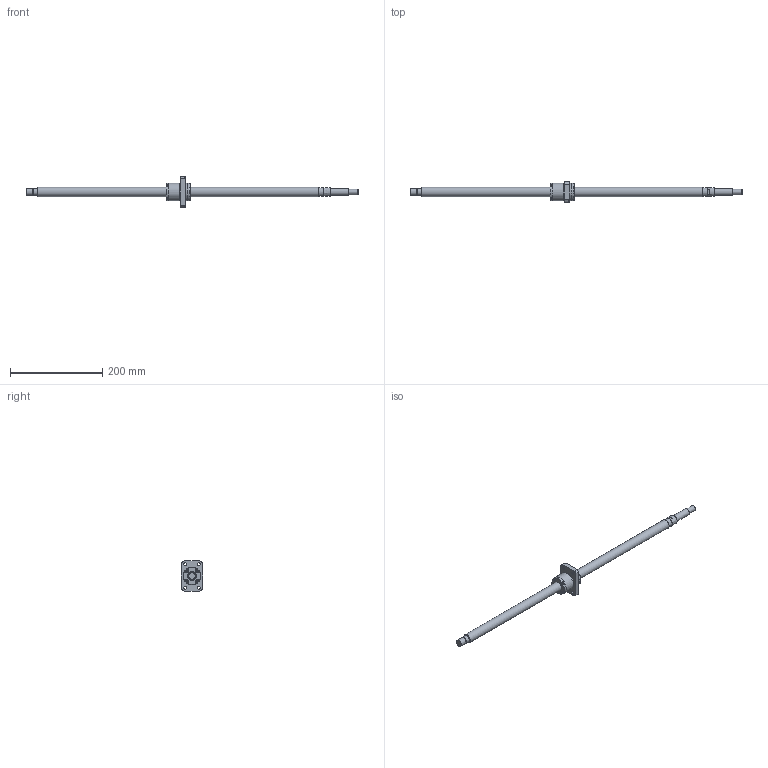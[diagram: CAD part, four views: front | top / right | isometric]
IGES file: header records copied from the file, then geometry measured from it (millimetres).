
Start section: Data from Parasolid IGES Translator 26.0.171, Copyright(c) 2006 Siemens PLM Software. All Rights Reserved.
Global section: file name: BNK2020-3.6G0+720LC5Y(3310).igs; native system: By Siemens PLM Incorporated; preprocessor: XPlus GENERIC/IGES 26.0.171; author: Noname; organization: Noname; date: 20240709.094013; units: millimetre
Bounding box: 720 x 46 x 66 mm (x, y, z)
Surface area: 61931.5 mm2 (no closed solid volume)
Topology: 0 solids, 0 shells, 139 faces, 649 edges, 586 vertices
Faces by surface type: extrusion 75, revolution 64
